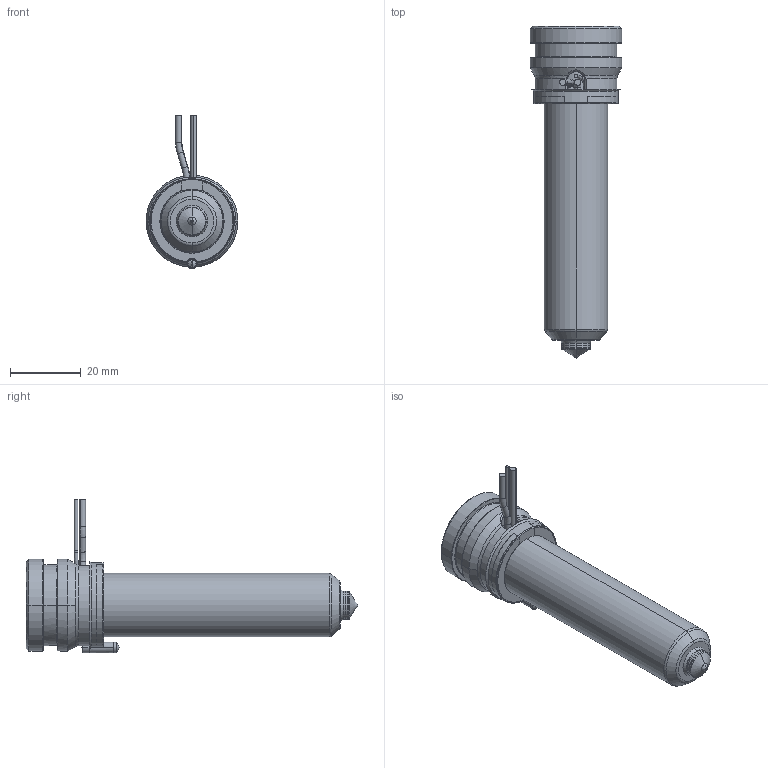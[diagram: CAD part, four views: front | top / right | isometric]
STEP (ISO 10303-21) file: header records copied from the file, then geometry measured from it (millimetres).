
FILE_DESCRIPTION((''),'2;1');
FILE_NAME('MPN-08-24-TS8-076-A','2026-02-05T11:52:37',('UPTIO'),('Thermoplay S.p.A.'),'CREO PARAMETRIC BY PTC INC, 2023494','CREO PARAMETRIC BY PTC INC, 2023494','');
FILE_SCHEMA(('CONFIG_CONTROL_DESIGN','SHAPE_APPEARANCE_LAYERS_GROUPS'));
Length unit declared in the file: millimetre
Products named in the file (1): MPN-08-24-TS8-076-A
Bounding box: 26 x 94 x 43.5 mm (x, y, z)
Volume: 19320.8 mm3; surface area: 23736.5 mm2
Topology: 2 solids, 5 shells, 548 faces, 1437 edges, 892 vertices
Faces by surface type: cylinder 178, plane 146, bspline 82, torus 64, cone 60, sphere 12, extrusion 6
Entity records: 29722 total; most frequent: CARTESIAN_POINT 13549, ORIENTED_EDGE 2854, DIRECTION 2539, EDGE_CURVE 1427, AXIS2_PLACEMENT_3D 992, VERTEX_POINT 892, EDGE_LOOP 575, VECTOR 555
